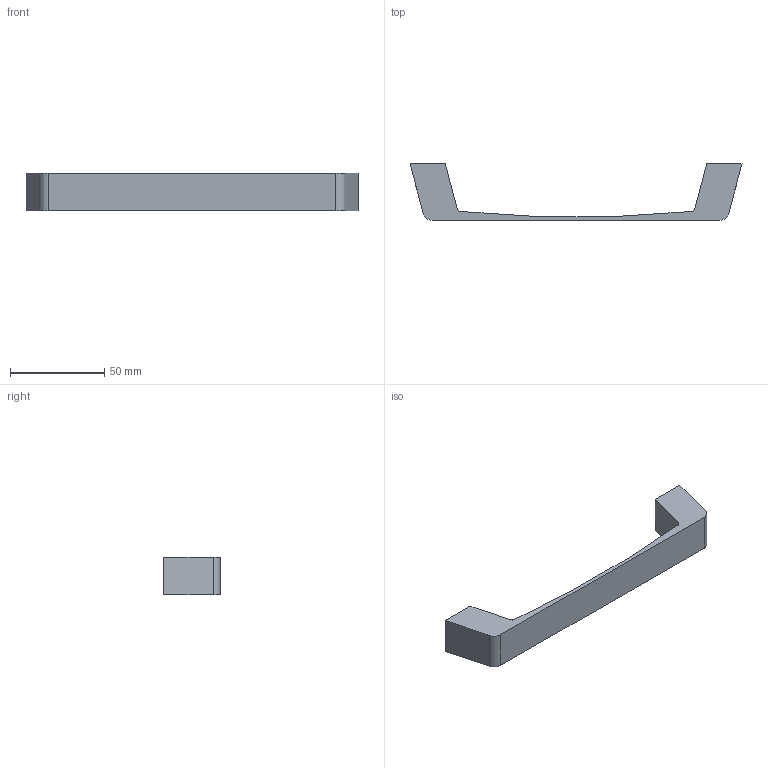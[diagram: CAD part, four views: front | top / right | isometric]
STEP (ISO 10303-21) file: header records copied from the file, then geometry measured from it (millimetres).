
FILE_DESCRIPTION( ( '' ), '1' );
FILE_NAME( 'C:/Documents and Settings/Nikhil/Desktop/Nik/Done/9097947.stp', '2013-10-24T06:10:53', ( '' ), ( '' ), ' ', ' ', ' ' );
FILE_SCHEMA( ( 'automotive_design' ) );
Length unit declared in the file: millimetre
Products named in the file (1): 1
Bounding box: 176 x 30 x 20 mm (x, y, z)
Volume: 28670.7 mm3; surface area: 11770.1 mm2
Topology: 1 solids, 1 shells, 20 faces, 48 edges, 32 vertices
Faces by surface type: plane 11, cylinder 9
Entity records: 1174 total; most frequent: DIRECTION 108, STYLED_ITEM 101, PRESENTATION_STYLE_ASSIGNMENT 101, CARTESIAN_POINT 101, COLOUR_RGB 101, ORIENTED_EDGE 96, EDGE_CURVE 48, CURVE_STYLE 48
